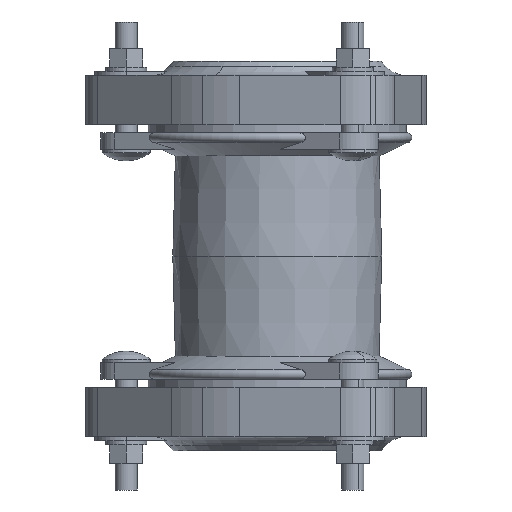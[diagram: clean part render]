
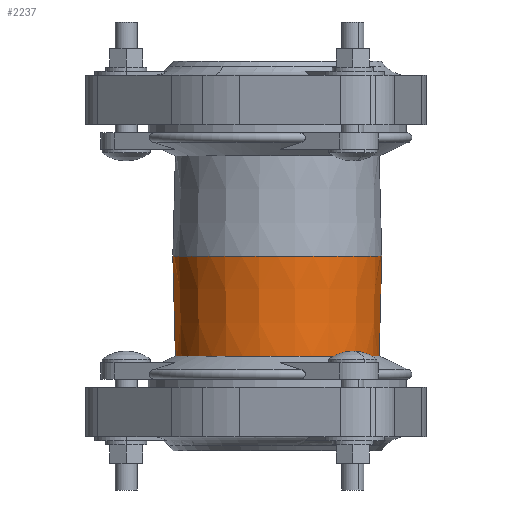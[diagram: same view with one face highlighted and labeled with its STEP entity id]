
A CAD part, left-side view. The second image highlights one B-rep face of the part: STEP entity #2237.
In plain terms, the highlighted conical face has half-angle 1.478 degrees and reference radius 75.409 mm.
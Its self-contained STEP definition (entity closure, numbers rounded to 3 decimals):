
#615=DIRECTION('',(0.,-0.026,-1.));
#616=VECTOR('',#615,73.157);
#617=CARTESIAN_POINT('',(0.,76.352,0.));
#618=LINE('',#617,#616);
#619=DIRECTION('',(0.,0.026,-1.));
#620=VECTOR('',#619,73.157);
#621=CARTESIAN_POINT('',(0.,-76.352,0.));
#622=LINE('',#621,#620);
#623=CARTESIAN_POINT('',(0.,0.,0.));
#624=DIRECTION('',(0.,0.,1.));
#625=DIRECTION('',(0.,1.,0.));
#626=AXIS2_PLACEMENT_3D('',#623,#624,#625);
#654=CARTESIAN_POINT('',(0.,0.,-73.133));
#655=DIRECTION('',(0.,0.,1.));
#656=DIRECTION('',(0.,1.,0.));
#657=AXIS2_PLACEMENT_3D('',#654,#655,#656);
#1405=CARTESIAN_POINT('',(0.,-74.466,
-73.133));
#1407=VERTEX_POINT('',#1405);
#1409=CARTESIAN_POINT('',(0.,74.466,-73.133));
#1410=VERTEX_POINT('',#1409);
#1451=CARTESIAN_POINT('',(0.,76.352,0.));
#1452=CARTESIAN_POINT('',(0.,-76.352,0.));
#1453=VERTEX_POINT('',#1451);
#1454=VERTEX_POINT('',#1452);
#2224=CARTESIAN_POINT('',(0.,0.,-36.566));
#2225=DIRECTION('',(0.,0.,1.));
#2226=DIRECTION('',(0.,1.,0.));
#2227=AXIS2_PLACEMENT_3D('',#2224,#2225,#2226);
#2228=CONICAL_SURFACE('',#2227,75.409,1.478);
#2230=ORIENTED_EDGE('',*,*,#2229,.T.);
#2231=ORIENTED_EDGE('',*,*,#2219,.T.);
#2233=ORIENTED_EDGE('',*,*,#2232,.F.);
#2234=ORIENTED_EDGE('',*,*,#2215,.F.);
#2235=EDGE_LOOP('',(#2230,#2231,#2233,#2234));
#2236=FACE_OUTER_BOUND('',#2235,.F.);
#2237=ADVANCED_FACE('',(#2236),#2228,.T.);
#627=CIRCLE('',#626,76.352);
#658=CIRCLE('',#657,74.466);
#2215=EDGE_CURVE('',#1453,#1410,#618,.T.);
#2219=EDGE_CURVE('',#1454,#1407,#622,.T.);
#2229=EDGE_CURVE('',#1453,#1454,#627,.T.);
#2232=EDGE_CURVE('',#1410,#1407,#658,.T.);
